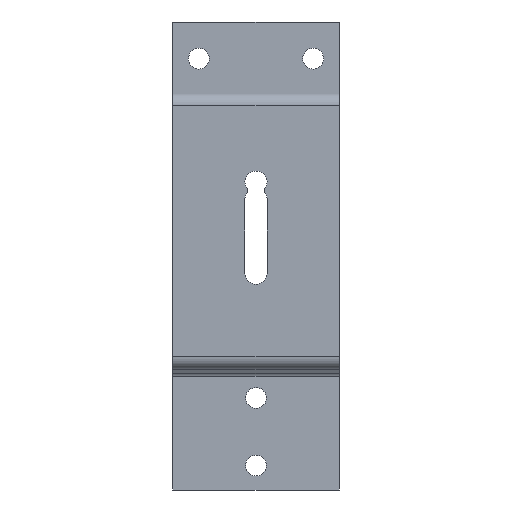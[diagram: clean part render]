
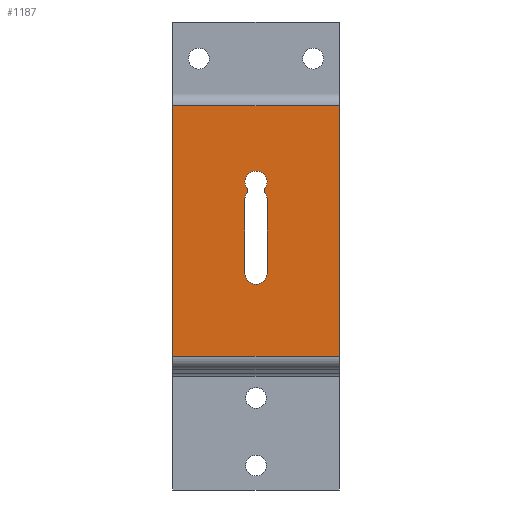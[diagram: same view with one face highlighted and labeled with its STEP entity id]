
A CAD part, front view. The second image highlights one B-rep face of the part: STEP entity #1187.
In plain terms, the highlighted planar face has unit normal (0, -1, 0).
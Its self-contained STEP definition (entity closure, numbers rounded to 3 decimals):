
#66 = VECTOR ( 'NONE', #1139, 1000. ) ;
#86 = ORIENTED_EDGE ( 'NONE', *, *, #985, .T. ) ;
#90 = EDGE_CURVE ( 'NONE', #839, #298, #1379, .T. ) ;
#104 = LINE ( 'NONE', #1549, #759 ) ;
#109 = VECTOR ( 'NONE', #867, 1000. ) ;
#111 = CARTESIAN_POINT ( 'NONE',  ( 27.75, 0., 60.612 ) ) ;
#160 = DIRECTION ( 'NONE',  ( 0., 0., -1. ) ) ;
#176 = DIRECTION ( 'NONE',  ( 0., -1., 0. ) ) ;
#181 = CARTESIAN_POINT ( 'NONE',  ( 32., 0., 60.612 ) ) ;
#185 = CARTESIAN_POINT ( 'NONE',  ( 27.85, 0., 63.827 ) ) ;
#212 = VECTOR ( 'NONE', #1497, 1000. ) ;
#219 = LINE ( 'NONE', #1511, #109 ) ;
#231 = CARTESIAN_POINT ( 'NONE',  ( 0., 0., 96.343 ) ) ;
#244 = CARTESIAN_POINT ( 'NONE',  ( 36.15, 0., 63.827 ) ) ;
#248 = DIRECTION ( 'NONE',  ( 0., -1., 0. ) ) ;
#283 = AXIS2_PLACEMENT_3D ( 'NONE', #626, #1155, #1022 ) ;
#298 = VERTEX_POINT ( 'NONE', #1431 ) ;
#331 = CIRCLE ( 'NONE', #746, 1. ) ;
#337 = DIRECTION ( 'NONE',  ( 0., 0., -1. ) ) ;
#341 = CARTESIAN_POINT ( 'NONE',  ( 36.25, 0., 60.612 ) ) ;
#348 = CARTESIAN_POINT ( 'NONE',  ( 28.64, 0., 63.215 ) ) ;
#360 = CARTESIAN_POINT ( 'NONE',  ( 0., 0., 96.343 ) ) ;
#361 = CARTESIAN_POINT ( 'NONE',  ( 36.25, 0., 32.043 ) ) ;
#387 = DIRECTION ( 'NONE',  ( 0., 0., -1. ) ) ;
#390 = VECTOR ( 'NONE', #387, 1000. ) ;
#398 = EDGE_CURVE ( 'NONE', #1536, #508, #886, .T. ) ;
#413 = LINE ( 'NONE', #1045, #390 ) ;
#429 = FACE_OUTER_BOUND ( 'NONE', #727, .T. ) ;
#431 = DIRECTION ( 'NONE',  ( 0., -1., 0. ) ) ;
#437 = DIRECTION ( 'NONE',  ( 0., -1., 0. ) ) ;
#447 = AXIS2_PLACEMENT_3D ( 'NONE', #1473, #431, #1073 ) ;
#466 = ORIENTED_EDGE ( 'NONE', *, *, #869, .T. ) ;
#508 = VERTEX_POINT ( 'NONE', #111 ) ;
#535 = AXIS2_PLACEMENT_3D ( 'NONE', #244, #248, #1158 ) ;
#542 = AXIS2_PLACEMENT_3D ( 'NONE', #181, #1089, #1215 ) ;
#543 = CARTESIAN_POINT ( 'NONE',  ( 0., 0., 96.343 ) ) ;
#550 = ORIENTED_EDGE ( 'NONE', *, *, #1191, .T. ) ;
#571 = ORIENTED_EDGE ( 'NONE', *, *, #1557, .F. ) ;
#579 = CARTESIAN_POINT ( 'NONE',  ( 32., 0., 67.043 ) ) ;
#618 = CARTESIAN_POINT ( 'NONE',  ( 35.36, 0., 63.215 ) ) ;
#624 = ORIENTED_EDGE ( 'NONE', *, *, #1491, .F. ) ;
#626 = CARTESIAN_POINT ( 'NONE',  ( 32., 0., 32.043 ) ) ;
#647 = ORIENTED_EDGE ( 'NONE', *, *, #773, .T. ) ;
#656 = ORIENTED_EDGE ( 'NONE', *, *, #90, .F. ) ;
#695 = DIRECTION ( 'NONE',  ( 0., 0., -1. ) ) ;
#700 = VERTEX_POINT ( 'NONE', #1153 ) ;
#705 = DIRECTION ( 'NONE',  ( 0., -1., 0. ) ) ;
#727 = EDGE_LOOP ( 'NONE', ( #647, #466, #656, #571 ) ) ;
#729 = ORIENTED_EDGE ( 'NONE', *, *, #1212, .F. ) ;
#735 = CARTESIAN_POINT ( 'NONE',  ( 36.25, 0., 32.043 ) ) ;
#746 = AXIS2_PLACEMENT_3D ( 'NONE', #185, #176, #695 ) ;
#758 = CARTESIAN_POINT ( 'NONE',  ( 32., 0., 60.612 ) ) ;
#759 = VECTOR ( 'NONE', #160, 1000. ) ;
#761 = ORIENTED_EDGE ( 'NONE', *, *, #1325, .F. ) ;
#773 = EDGE_CURVE ( 'NONE', #958, #939, #413, .T. ) ;
#794 = VERTEX_POINT ( 'NONE', #1433 ) ;
#839 = VERTEX_POINT ( 'NONE', #1124 ) ;
#841 = ORIENTED_EDGE ( 'NONE', *, *, #398, .F. ) ;
#863 = AXIS2_PLACEMENT_3D ( 'NONE', #543, #437, #966 ) ;
#867 = DIRECTION ( 'NONE',  ( 1., 0., 0. ) ) ;
#869 = EDGE_CURVE ( 'NONE', #939, #298, #219, .T. ) ;
#886 = CIRCLE ( 'NONE', #542, 4.25 ) ;
#890 = DIRECTION ( 'NONE',  ( 0., 0., -1. ) ) ;
#925 = AXIS2_PLACEMENT_3D ( 'NONE', #758, #1655, #890 ) ;
#939 = VERTEX_POINT ( 'NONE', #1649 ) ;
#958 = VERTEX_POINT ( 'NONE', #360 ) ;
#966 = DIRECTION ( 'NONE',  ( 0., 0., -1. ) ) ;
#976 = EDGE_CURVE ( 'NONE', #1429, #998, #988, .T. ) ;
#985 = EDGE_CURVE ( 'NONE', #1228, #998, #1455, .T. ) ;
#986 = LINE ( 'NONE', #735, #212 ) ;
#988 = CIRCLE ( 'NONE', #925, 4.25 ) ;
#998 = VERTEX_POINT ( 'NONE', #618 ) ;
#1006 = EDGE_CURVE ( 'NONE', #700, #1513, #1621, .T. ) ;
#1022 = DIRECTION ( 'NONE',  ( 0., 0., -1. ) ) ;
#1045 = CARTESIAN_POINT ( 'NONE',  ( 0., 0., 96.343 ) ) ;
#1062 = EDGE_CURVE ( 'NONE', #508, #1347, #104, .T. ) ;
#1073 = DIRECTION ( 'NONE',  ( 0., 0., -1. ) ) ;
#1085 = CARTESIAN_POINT ( 'NONE',  ( 64., 0., 96.343 ) ) ;
#1089 = DIRECTION ( 'NONE',  ( 0., -1., 0. ) ) ;
#1098 = CARTESIAN_POINT ( 'NONE',  ( 35.36, 0., 64.44 ) ) ;
#1108 = CIRCLE ( 'NONE', #1571, 4.25 ) ;
#1124 = CARTESIAN_POINT ( 'NONE',  ( 64., 0., 96.343 ) ) ;
#1139 = DIRECTION ( 'NONE',  ( 1., 0., 0. ) ) ;
#1153 = CARTESIAN_POINT ( 'NONE',  ( 32., 0., 27.793 ) ) ;
#1155 = DIRECTION ( 'NONE',  ( 0., -1., 0. ) ) ;
#1158 = DIRECTION ( 'NONE',  ( 0., 0., -1. ) ) ;
#1187 = ADVANCED_FACE ( 'NONE', ( #1366, #429 ), #1324, .T. ) ;
#1191 = EDGE_CURVE ( 'NONE', #1536, #794, #331, .T. ) ;
#1208 = DIRECTION ( 'NONE',  ( 0., 0., -1. ) ) ;
#1209 = CIRCLE ( 'NONE', #447, 4.25 ) ;
#1212 = EDGE_CURVE ( 'NONE', #1347, #700, #1209, .T. ) ;
#1215 = DIRECTION ( 'NONE',  ( 0., 0., -1. ) ) ;
#1228 = VERTEX_POINT ( 'NONE', #1098 ) ;
#1296 = ORIENTED_EDGE ( 'NONE', *, *, #1062, .F. ) ;
#1301 = ORIENTED_EDGE ( 'NONE', *, *, #1006, .F. ) ;
#1324 = PLANE ( 'NONE',  #863 ) ;
#1325 = EDGE_CURVE ( 'NONE', #1228, #794, #1108, .T. ) ;
#1340 = VECTOR ( 'NONE', #1208, 1000. ) ;
#1347 = VERTEX_POINT ( 'NONE', #1618 ) ;
#1366 = FACE_BOUND ( 'NONE', #1622, .T. ) ;
#1379 = LINE ( 'NONE', #1085, #1340 ) ;
#1395 = ORIENTED_EDGE ( 'NONE', *, *, #976, .F. ) ;
#1429 = VERTEX_POINT ( 'NONE', #341 ) ;
#1431 = CARTESIAN_POINT ( 'NONE',  ( 64., 0., 0. ) ) ;
#1433 = CARTESIAN_POINT ( 'NONE',  ( 28.64, 0., 64.44 ) ) ;
#1455 = CIRCLE ( 'NONE', #535, 1. ) ;
#1465 = LINE ( 'NONE', #231, #66 ) ;
#1473 = CARTESIAN_POINT ( 'NONE',  ( 32., 0., 32.043 ) ) ;
#1491 = EDGE_CURVE ( 'NONE', #1513, #1429, #986, .T. ) ;
#1497 = DIRECTION ( 'NONE',  ( 0., 0., 1. ) ) ;
#1511 = CARTESIAN_POINT ( 'NONE',  ( 64., 0., 0. ) ) ;
#1513 = VERTEX_POINT ( 'NONE', #361 ) ;
#1536 = VERTEX_POINT ( 'NONE', #348 ) ;
#1549 = CARTESIAN_POINT ( 'NONE',  ( 27.75, 0., 60.612 ) ) ;
#1557 = EDGE_CURVE ( 'NONE', #958, #839, #1465, .T. ) ;
#1571 = AXIS2_PLACEMENT_3D ( 'NONE', #579, #705, #337 ) ;
#1618 = CARTESIAN_POINT ( 'NONE',  ( 27.75, 0., 32.043 ) ) ;
#1621 = CIRCLE ( 'NONE', #283, 4.25 ) ;
#1622 = EDGE_LOOP ( 'NONE', ( #761, #86, #1395, #624, #1301, #729, #1296, #841, #550 ) ) ;
#1649 = CARTESIAN_POINT ( 'NONE',  ( 0., 0., 0. ) ) ;
#1655 = DIRECTION ( 'NONE',  ( 0., -1., 0. ) ) ;
